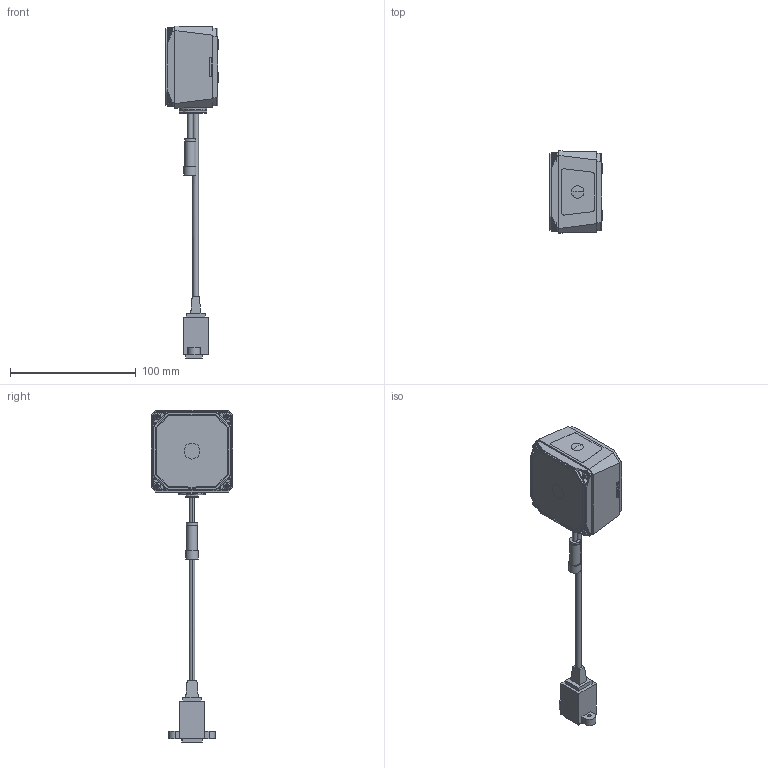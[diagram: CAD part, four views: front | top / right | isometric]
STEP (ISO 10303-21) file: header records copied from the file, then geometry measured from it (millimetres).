
FILE_DESCRIPTION((''),'2;1');
FILE_NAME('PRT0145','2025-09-08T16:15:56',('qinyangfan'),(''),'CREO PARAMETRIC BY PTC INC, 2020044','CREO PARAMETRIC BY PTC INC, 2020044','');
FILE_SCHEMA(('CONFIG_CONTROL_DESIGN'));
Products named in the file (1): PRT0145
Bounding box: 41.9 x 65.2 x 263.98 mm (x, y, z)
Volume: 180344.8 mm3; surface area: 31867.8 mm2
Topology: 1 solids, 6 shells, 973 faces, 2648 edges, 1725 vertices
Faces by surface type: plane 519, cylinder 209, bspline 149, cone 46, torus 30, extrusion 14, sphere 6
Entity records: 46758 total; most frequent: CARTESIAN_POINT 23545, ORIENTED_EDGE 5268, DIRECTION 4138, EDGE_CURVE 2634, VERTEX_POINT 1725, VECTOR 1410, LINE 1396, AXIS2_PLACEMENT_3D 1364
